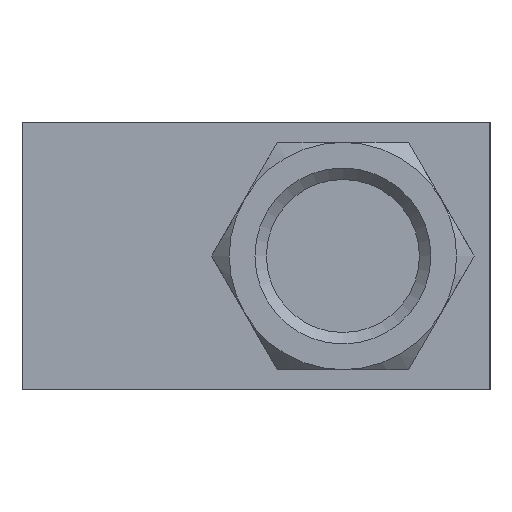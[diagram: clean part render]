
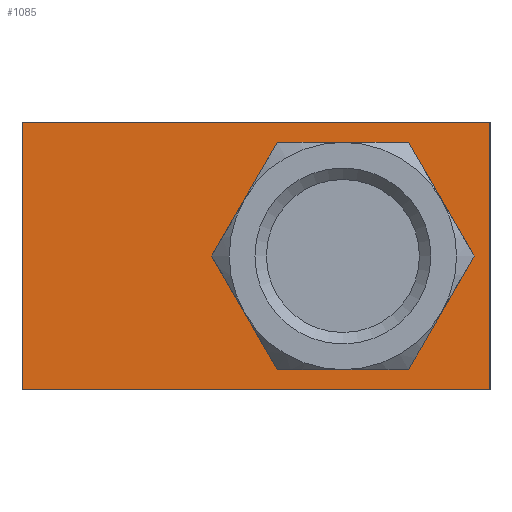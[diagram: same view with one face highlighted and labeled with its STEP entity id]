
A CAD part, left-side view. The second image highlights one B-rep face of the part: STEP entity #1085.
In plain terms, the highlighted planar face has unit normal (-1, 0, 0).
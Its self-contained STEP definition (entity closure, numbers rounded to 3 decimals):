
#1 = VECTOR ( 'NONE', #1109, 1000. ) ;
#5 = DIRECTION ( 'NONE',  ( 0., 0., -1. ) ) ;
#46 = AXIS2_PLACEMENT_3D ( 'NONE', #176, #688, #94 ) ;
#54 = LINE ( 'NONE', #425, #819 ) ;
#71 = EDGE_CURVE ( 'NONE', #722, #907, #219, .T. ) ;
#94 = DIRECTION ( 'NONE',  ( 0., 1., 0. ) ) ;
#101 = VECTOR ( 'NONE', #1102, 1000. ) ;
#102 = EDGE_CURVE ( 'NONE', #569, #916, #642, .T. ) ;
#117 = ORIENTED_EDGE ( 'NONE', *, *, #958, .F. ) ;
#119 = EDGE_CURVE ( 'NONE', #507, #569, #54, .T. ) ;
#123 = CARTESIAN_POINT ( 'NONE',  ( 0., 1.185, 0. ) ) ;
#128 = EDGE_CURVE ( 'NONE', #1052, #704, #383, .T. ) ;
#151 = CARTESIAN_POINT ( 'NONE',  ( 0., 1.185, 0. ) ) ;
#152 = CARTESIAN_POINT ( 'NONE',  ( 0., 6.093, -8.5 ) ) ;
#156 = CARTESIAN_POINT ( 'NONE',  ( 0., 35., -10. ) ) ;
#174 = FACE_BOUND ( 'NONE', #1081, .T. ) ;
#176 = CARTESIAN_POINT ( 'NONE',  ( 0., 35., 10. ) ) ;
#214 = LINE ( 'NONE', #435, #568 ) ;
#219 = LINE ( 'NONE', #645, #1 ) ;
#263 = CARTESIAN_POINT ( 'NONE',  ( 0., 35., 10. ) ) ;
#284 = DIRECTION ( 'NONE',  ( 0., -1., 0. ) ) ;
#290 = ORIENTED_EDGE ( 'NONE', *, *, #128, .F. ) ;
#342 = EDGE_CURVE ( 'NONE', #937, #1100, #643, .T. ) ;
#343 = CARTESIAN_POINT ( 'NONE',  ( 0., 15.907, 8.5 ) ) ;
#360 = VECTOR ( 'NONE', #748, 1000. ) ;
#383 = LINE ( 'NONE', #932, #1030 ) ;
#388 = LINE ( 'NONE', #1016, #101 ) ;
#420 = VECTOR ( 'NONE', #518, 1000. ) ;
#425 = CARTESIAN_POINT ( 'NONE',  ( 0., 15.907, -8.5 ) ) ;
#432 = CARTESIAN_POINT ( 'NONE',  ( 0., 15.907, 8.5 ) ) ;
#434 = VECTOR ( 'NONE', #893, 1000. ) ;
#435 = CARTESIAN_POINT ( 'NONE',  ( 0., 35., -10. ) ) ;
#474 = VECTOR ( 'NONE', #955, 1000. ) ;
#475 = EDGE_CURVE ( 'NONE', #916, #937, #514, .T. ) ;
#482 = CARTESIAN_POINT ( 'NONE',  ( 0., 6.093, 8.5 ) ) ;
#493 = ORIENTED_EDGE ( 'NONE', *, *, #119, .F. ) ;
#507 = VERTEX_POINT ( 'NONE', #862 ) ;
#514 = LINE ( 'NONE', #123, #434 ) ;
#518 = DIRECTION ( 'NONE',  ( 0., 1., 0. ) ) ;
#526 = CARTESIAN_POINT ( 'NONE',  ( 0., 35., 10. ) ) ;
#527 = ORIENTED_EDGE ( 'NONE', *, *, #342, .F. ) ;
#568 = VECTOR ( 'NONE', #284, 1000. ) ;
#569 = VERTEX_POINT ( 'NONE', #966 ) ;
#576 = ORIENTED_EDGE ( 'NONE', *, *, #475, .F. ) ;
#588 = PLANE ( 'NONE',  #46 ) ;
#621 = LINE ( 'NONE', #263, #474 ) ;
#624 = EDGE_CURVE ( 'NONE', #722, #1052, #621, .T. ) ;
#642 = LINE ( 'NONE', #152, #360 ) ;
#643 = LINE ( 'NONE', #861, #420 ) ;
#645 = CARTESIAN_POINT ( 'NONE',  ( 0., 35., 10. ) ) ;
#688 = DIRECTION ( 'NONE',  ( 1., 0., 0. ) ) ;
#704 = VERTEX_POINT ( 'NONE', #1021 ) ;
#709 = VECTOR ( 'NONE', #1032, 1000. ) ;
#712 = VERTEX_POINT ( 'NONE', #881 ) ;
#722 = VERTEX_POINT ( 'NONE', #526 ) ;
#724 = EDGE_CURVE ( 'NONE', #907, #704, #214, .T. ) ;
#748 = DIRECTION ( 'NONE',  ( 0., -0.5, 0.866 ) ) ;
#753 = ORIENTED_EDGE ( 'NONE', *, *, #1074, .F. ) ;
#773 = ORIENTED_EDGE ( 'NONE', *, *, #724, .T. ) ;
#819 = VECTOR ( 'NONE', #938, 1000. ) ;
#861 = CARTESIAN_POINT ( 'NONE',  ( 0., 6.093, 8.5 ) ) ;
#862 = CARTESIAN_POINT ( 'NONE',  ( 0., 15.907, -8.5 ) ) ;
#868 = EDGE_LOOP ( 'NONE', ( #773, #290, #935, #1000 ) ) ;
#881 = CARTESIAN_POINT ( 'NONE',  ( 0., 20.815, 0. ) ) ;
#893 = DIRECTION ( 'NONE',  ( 0., 0.5, 0.866 ) ) ;
#907 = VERTEX_POINT ( 'NONE', #156 ) ;
#916 = VERTEX_POINT ( 'NONE', #151 ) ;
#932 = CARTESIAN_POINT ( 'NONE',  ( 0., 0., 10. ) ) ;
#935 = ORIENTED_EDGE ( 'NONE', *, *, #624, .F. ) ;
#937 = VERTEX_POINT ( 'NONE', #482 ) ;
#938 = DIRECTION ( 'NONE',  ( 0., -1., 0. ) ) ;
#948 = CARTESIAN_POINT ( 'NONE',  ( 0., 0., 10. ) ) ;
#952 = LINE ( 'NONE', #343, #709 ) ;
#955 = DIRECTION ( 'NONE',  ( 0., -1., 0. ) ) ;
#958 = EDGE_CURVE ( 'NONE', #712, #507, #388, .T. ) ;
#966 = CARTESIAN_POINT ( 'NONE',  ( 0., 6.093, -8.5 ) ) ;
#992 = ORIENTED_EDGE ( 'NONE', *, *, #102, .F. ) ;
#1000 = ORIENTED_EDGE ( 'NONE', *, *, #71, .T. ) ;
#1016 = CARTESIAN_POINT ( 'NONE',  ( 0., 20.815, 0. ) ) ;
#1021 = CARTESIAN_POINT ( 'NONE',  ( 0., 0., -10. ) ) ;
#1030 = VECTOR ( 'NONE', #5, 1000. ) ;
#1032 = DIRECTION ( 'NONE',  ( 0., 0.5, -0.866 ) ) ;
#1052 = VERTEX_POINT ( 'NONE', #948 ) ;
#1074 = EDGE_CURVE ( 'NONE', #1100, #712, #952, .T. ) ;
#1079 = FACE_OUTER_BOUND ( 'NONE', #868, .T. ) ;
#1081 = EDGE_LOOP ( 'NONE', ( #753, #527, #576, #992, #493, #117 ) ) ;
#1085 = ADVANCED_FACE ( 'NONE', ( #1079, #174 ), #588, .F. ) ;
#1100 = VERTEX_POINT ( 'NONE', #432 ) ;
#1102 = DIRECTION ( 'NONE',  ( 0., -0.5, -0.866 ) ) ;
#1109 = DIRECTION ( 'NONE',  ( 0., 0., -1. ) ) ;
